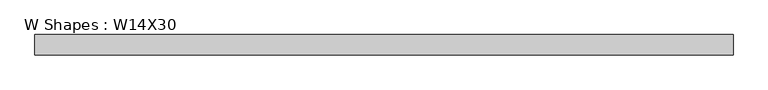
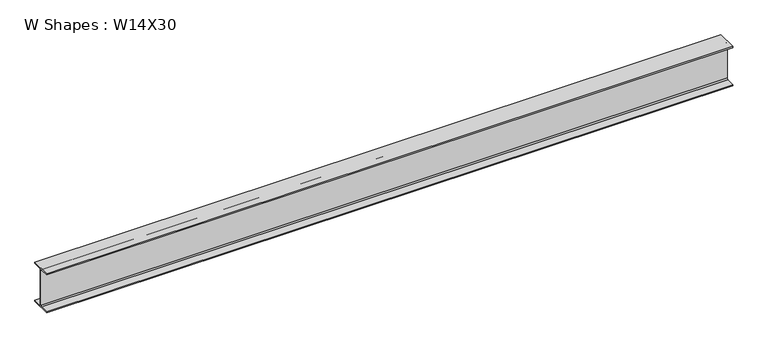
"""IFC4 building model written with IfcOpenShell, lengths in millimetres: beam geometry, W Shapes : W14X30."""

from ifc_helpers import new_model, si_unit, point, frame, frame_2d, origin, place, context, project, spatial, polyline, circle_curve, trimmed, segment, composite_curve, outline, extrude, source, transform, mapped, element, save


def w_shapes_w14x30_bed481f1(model_context):
    return source(origin(), model_context, "Body", "SweptSolid", [
        extrude(outline(composite_curve([segment(polyline([(85.471, -165.481), (85.471, -175.26), (-85.471, -175.26), (-85.471, -165.481), (-13.589, -165.481)]), True, "CONTINUOUS"), segment(trimmed(circle_curve(frame_2d((-13.589, -155.321)), 10.16), [point((-13.589, -165.481))], [point((-3.429, -155.321))], True, "CARTESIAN"), True, "CONTINUOUS"), segment(polyline([(-3.429, -155.321), (-3.429, 155.321)]), True, "CONTINUOUS"), segment(trimmed(circle_curve(frame_2d((-13.589, 155.321)), 10.16), [point((-3.429, 155.321))], [point((-13.589, 165.481))], True, "CARTESIAN"), True, "CONTINUOUS"), segment(polyline([(-13.589, 165.481), (-85.471, 165.481), (-85.471, 175.26), (85.471, 175.26), (85.471, 165.481), (13.589, 165.481)]), True, "CONTINUOUS"), segment(trimmed(circle_curve(frame_2d((13.589, 155.321)), 10.16), [point((13.589, 165.481))], [point((3.429, 155.321))], True, "CARTESIAN"), True, "CONTINUOUS"), segment(polyline([(3.429, 155.321), (3.429, -155.321)]), True, "CONTINUOUS"), segment(trimmed(circle_curve(frame_2d((13.589, -155.321)), 10.16), [point((3.429, -155.321))], [point((13.589, -165.481))], True, "CARTESIAN"), True, "CONTINUOUS"), segment(polyline([(13.589, -165.481), (85.471, -165.481)]), True, "CONTINUOUS")], self_intersect=False)), frame((-2912.3635729, 0.0, 0.0), z_axis=(1.0, 0.0, 0.0), x_axis=(0.0, 1.0, 0.0)), (0.0, 0.0, 1.0), 5817.4246457),
    ])


if __name__ == "__main__":
    model = new_model("IFC4")
    model_context = context("Model", 3, world=origin())
    ifc_project = project(units=[si_unit("LENGTHUNIT", "METRE", prefix="MILLI")], contexts=[model_context])
    site = spatial("IfcSite", under=ifc_project)
    building = spatial("IfcBuilding", under=site)
    placement = place(None, origin())
    w_shapes_w14x30_shape = w_shapes_w14x30_bed481f1(model_context)
    element("IfcBeam", 1, ObjectType="W Shapes : W14X30", at=placement, inside=building, context=model_context, shape_type="MappedRepresentation", body=[
        mapped(w_shapes_w14x30_shape, transform((0.0, 0.0, 0.0), x_axis=(1.0, 0.0, 0.0), y_axis=(0.0, 1.0, 0.0), z_axis=(0.0, 0.0, 1.0))),
    ])
    save(model, "model.ifc")
